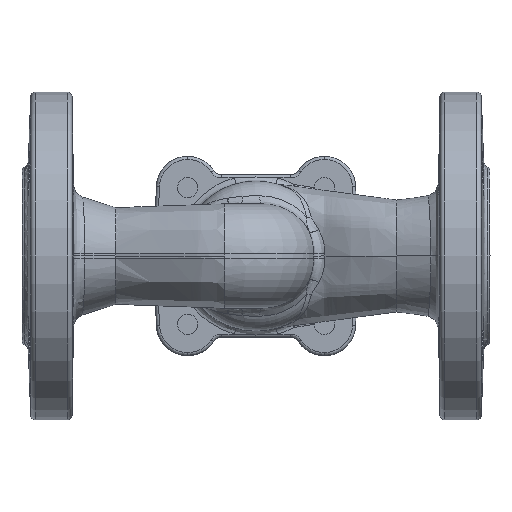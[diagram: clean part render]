
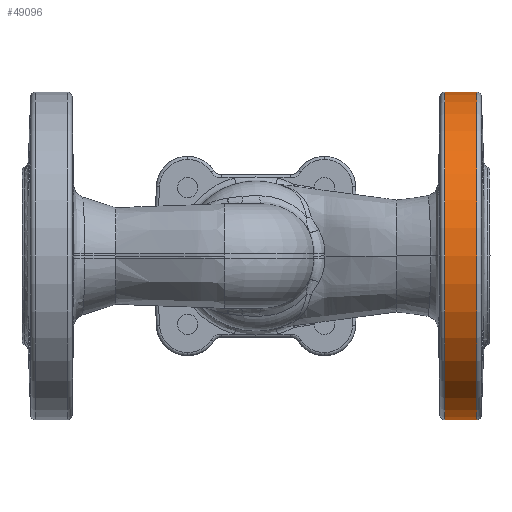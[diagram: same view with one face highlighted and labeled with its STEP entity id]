
A CAD part, front view. The second image highlights one B-rep face of the part: STEP entity #49096.
In plain terms, the highlighted cylindrical face has radius 52.5 mm (diameter 105 mm), a partial arc.
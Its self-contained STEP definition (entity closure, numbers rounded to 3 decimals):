
#3390 = DIRECTION ( 'NONE',  ( -1., 0., 0. ) ) ;
#4452 = DIRECTION ( 'NONE',  ( -1., 0., 0. ) ) ;
#8868 = DIRECTION ( 'NONE',  ( -1., 0., 0. ) ) ;
#9917 = ORIENTED_EDGE ( 'NONE', *, *, #34613, .T. ) ;
#10454 = CARTESIAN_POINT ( 'NONE',  ( 145.736, 0., -52.5 ) ) ;
#13282 = CARTESIAN_POINT ( 'NONE',  ( 135.474, 0., 52.5 ) ) ;
#13569 = CARTESIAN_POINT ( 'NONE',  ( 135.474, 0., 0. ) ) ;
#14307 = CYLINDRICAL_SURFACE ( 'NONE', #54651, 52.5 ) ;
#16913 = EDGE_LOOP ( 'NONE', ( #59528, #52878, #9917, #40931 ) ) ;
#18920 = CARTESIAN_POINT ( 'NONE',  ( 0., 0., 0. ) ) ;
#23546 = EDGE_CURVE ( 'NONE', #39517, #42867, #23703, .T. ) ;
#23555 = EDGE_CURVE ( 'NONE', #34766, #39517, #48606, .T. ) ;
#23703 = CIRCLE ( 'NONE', #41414, 52.5 ) ;
#26448 = CIRCLE ( 'NONE', #51507, 52.5 ) ;
#27352 = DIRECTION ( 'NONE',  ( -1., 0., 0. ) ) ;
#31059 = VECTOR ( 'NONE', #8868, 1000. ) ;
#32301 = CARTESIAN_POINT ( 'NONE',  ( 145.736, 0., 52.5 ) ) ;
#34613 = EDGE_CURVE ( 'NONE', #37283, #42867, #38048, .T. ) ;
#34766 = VERTEX_POINT ( 'NONE', #10454 ) ;
#36478 = DIRECTION ( 'NONE',  ( 0., 0., 1. ) ) ;
#37283 = VERTEX_POINT ( 'NONE', #32301 ) ;
#37821 = CARTESIAN_POINT ( 'NONE',  ( 0., 0., -52.5 ) ) ;
#38048 = LINE ( 'NONE', #62601, #31059 ) ;
#39517 = VERTEX_POINT ( 'NONE', #54422 ) ;
#40931 = ORIENTED_EDGE ( 'NONE', *, *, #23546, .F. ) ;
#41414 = AXIS2_PLACEMENT_3D ( 'NONE', #13569, #3390, #63350 ) ;
#42867 = VERTEX_POINT ( 'NONE', #13282 ) ;
#46654 = VECTOR ( 'NONE', #27352, 1000. ) ;
#48606 = LINE ( 'NONE', #37821, #46654 ) ;
#49096 = ADVANCED_FACE ( 'NONE', ( #54875 ), #14307, .T. ) ;
#51507 = AXIS2_PLACEMENT_3D ( 'NONE', #56112, #60692, #36478 ) ;
#52878 = ORIENTED_EDGE ( 'NONE', *, *, #59980, .T. ) ;
#54422 = CARTESIAN_POINT ( 'NONE',  ( 135.474, 0., -52.5 ) ) ;
#54651 = AXIS2_PLACEMENT_3D ( 'NONE', #18920, #4452, #58864 ) ;
#54875 = FACE_OUTER_BOUND ( 'NONE', #16913, .T. ) ;
#56112 = CARTESIAN_POINT ( 'NONE',  ( 145.736, 0., 0. ) ) ;
#58864 = DIRECTION ( 'NONE',  ( 0., 0., 1. ) ) ;
#59528 = ORIENTED_EDGE ( 'NONE', *, *, #23555, .F. ) ;
#59980 = EDGE_CURVE ( 'NONE', #34766, #37283, #26448, .T. ) ;
#60692 = DIRECTION ( 'NONE',  ( -1., 0., 0. ) ) ;
#62601 = CARTESIAN_POINT ( 'NONE',  ( 0., 0., 52.5 ) ) ;
#63350 = DIRECTION ( 'NONE',  ( 0., 0., 1. ) ) ;
